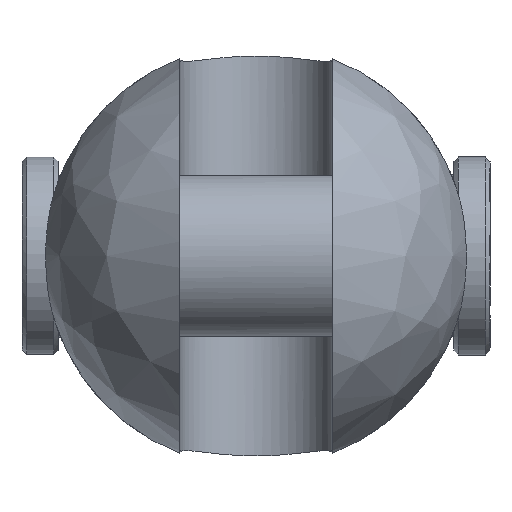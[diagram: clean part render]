
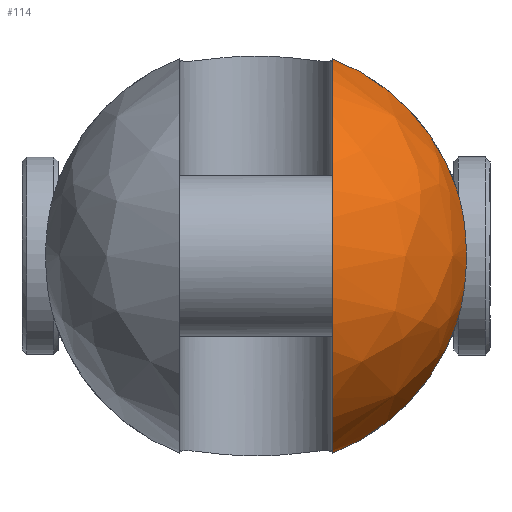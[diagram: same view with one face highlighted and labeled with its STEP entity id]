
A CAD part, left-side view. The second image highlights one B-rep face of the part: STEP entity #114.
In plain terms, the highlighted free-form (B-spline) face has degree [2, 2] with [9, 5] control points.
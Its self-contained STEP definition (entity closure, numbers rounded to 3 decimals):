
#114=ADVANCED_FACE('',(#202),#1530,.T.);
#202=FACE_OUTER_BOUND('',#302,.T.);
#302=EDGE_LOOP('',(#744,#745,#746,#747));
#744=ORIENTED_EDGE('',*,*,#999,.T.);
#745=ORIENTED_EDGE('',*,*,#996,.F.);
#746=ORIENTED_EDGE('',*,*,#1014,.T.);
#747=ORIENTED_EDGE('',*,*,#990,.F.);
#990=EDGE_CURVE('',#1420,#1421,#1252,.T.);
#996=EDGE_CURVE('',#1428,#1429,#1253,.T.);
#999=EDGE_CURVE('',#1420,#1429,#1255,.T.);
#1014=EDGE_CURVE('',#1428,#1421,#1123,.T.);
#1123=B_SPLINE_CURVE_WITH_KNOTS('',3,(#3559,#3560,#3561,#3562,#3563,#3564,
#3565,#3566,#3567,#3568,#3569,#3570,#3571,#3572),.UNSPECIFIED.,.F.,.F.,
(4,2,2,2,2,2,4),(0.,0.489,4.249,8.01,
11.771,15.532,16.021),.UNSPECIFIED.);
#1252=(
BOUNDED_CURVE()
B_SPLINE_CURVE(2,(#3465,#3466,#3467),.UNSPECIFIED.,.F.,.F.)
B_SPLINE_CURVE_WITH_KNOTS((3,3),(0.,20.761),.UNSPECIFIED.)
CURVE()
GEOMETRIC_REPRESENTATION_ITEM()
RATIONAL_B_SPLINE_CURVE((1.,0.904,1.))
REPRESENTATION_ITEM('')
);
#1253=(
BOUNDED_CURVE()
B_SPLINE_CURVE(2,(#3494,#3495,#3496),.UNSPECIFIED.,.F.,.F.)
B_SPLINE_CURVE_WITH_KNOTS((3,3),(0.,20.761),.UNSPECIFIED.)
CURVE()
GEOMETRIC_REPRESENTATION_ITEM()
RATIONAL_B_SPLINE_CURVE((1.,0.904,1.))
REPRESENTATION_ITEM('')
);
#1255=(
BOUNDED_CURVE()
B_SPLINE_CURVE(2,(#3502,#3503,#3504,#3505,#3506),.UNSPECIFIED.,.F.,.F.)
B_SPLINE_CURVE_WITH_KNOTS((3,2,3),(-68.829,-34.414,
0.),.UNSPECIFIED.)
CURVE()
GEOMETRIC_REPRESENTATION_ITEM()
RATIONAL_B_SPLINE_CURVE((1.,0.707,1.,0.707,1.))
REPRESENTATION_ITEM('')
);
#1420=VERTEX_POINT('',#3297);
#1421=VERTEX_POINT('',#3298);
#1428=VERTEX_POINT('',#3305);
#1429=VERTEX_POINT('',#3306);
#1530=(
BOUNDED_SURFACE()
B_SPLINE_SURFACE(2,2,((#3169,#3170,#3171,#3172,#3173),(#3174,#3175,#3176,
#3177,#3178),(#3179,#3180,#3181,#3182,#3183),(#3184,#3185,#3186,#3187,#3188),
(#3189,#3190,#3191,#3192,#3193),(#3194,#3195,#3196,#3197,#3198),(#3199,
#3200,#3201,#3202,#3203),(#3204,#3205,#3206,#3207,#3208),(#3209,#3210,#3211,
#3212,#3213)),.UNSPECIFIED.,.T.,.F.,.F.)
B_SPLINE_SURFACE_WITH_KNOTS((3,2,2,2,3),(3,2,3),(0.,36.914,73.827,
110.741,147.655),(0.,36.914,73.827),
 .UNSPECIFIED.)
GEOMETRIC_REPRESENTATION_ITEM()
RATIONAL_B_SPLINE_SURFACE(((1.,0.707,1.,0.707,1.),
(0.707,0.5,0.707,0.5,0.707),(1.,0.707,
1.,0.707,1.),(0.707,0.5,0.707,0.5,0.707),
(1.,0.707,1.,0.707,1.),(0.707,0.5,0.707,
0.5,0.707),(1.,0.707,1.,0.707,1.),(0.707,
0.5,0.707,0.5,0.707),(1.,0.707,1.,0.707,
1.)))
REPRESENTATION_ITEM('')
SURFACE()
);
#3169=CARTESIAN_POINT('',(-33.,0.,0.));
#3170=CARTESIAN_POINT('',(-33.,23.5,0.));
#3171=CARTESIAN_POINT('',(-9.5,23.5,0.));
#3172=CARTESIAN_POINT('',(14.,23.5,0.));
#3173=CARTESIAN_POINT('',(14.,0.,0.));
#3174=CARTESIAN_POINT('',(-33.,0.,0.));
#3175=CARTESIAN_POINT('',(-33.,23.5,23.5));
#3176=CARTESIAN_POINT('',(-9.5,23.5,23.5));
#3177=CARTESIAN_POINT('',(14.,23.5,23.5));
#3178=CARTESIAN_POINT('',(14.,0.,0.));
#3179=CARTESIAN_POINT('',(-33.,0.,0.));
#3180=CARTESIAN_POINT('',(-33.,0.,23.5));
#3181=CARTESIAN_POINT('',(-9.5,0.,23.5));
#3182=CARTESIAN_POINT('',(14.,0.,23.5));
#3183=CARTESIAN_POINT('',(14.,0.,0.));
#3184=CARTESIAN_POINT('',(-33.,0.,0.));
#3185=CARTESIAN_POINT('',(-33.,-23.5,23.5));
#3186=CARTESIAN_POINT('',(-9.5,-23.5,23.5));
#3187=CARTESIAN_POINT('',(14.,-23.5,23.5));
#3188=CARTESIAN_POINT('',(14.,0.,0.));
#3189=CARTESIAN_POINT('',(-33.,0.,0.));
#3190=CARTESIAN_POINT('',(-33.,-23.5,0.));
#3191=CARTESIAN_POINT('',(-9.5,-23.5,0.));
#3192=CARTESIAN_POINT('',(14.,-23.5,0.));
#3193=CARTESIAN_POINT('',(14.,0.,0.));
#3194=CARTESIAN_POINT('',(-33.,0.,0.));
#3195=CARTESIAN_POINT('',(-33.,-23.5,-23.5));
#3196=CARTESIAN_POINT('',(-9.5,-23.5,-23.5));
#3197=CARTESIAN_POINT('',(14.,-23.5,-23.5));
#3198=CARTESIAN_POINT('',(14.,0.,0.));
#3199=CARTESIAN_POINT('',(-33.,0.,0.));
#3200=CARTESIAN_POINT('',(-33.,0.,-23.5));
#3201=CARTESIAN_POINT('',(-9.5,0.,-23.5));
#3202=CARTESIAN_POINT('',(14.,0.,-23.5));
#3203=CARTESIAN_POINT('',(14.,0.,0.));
#3204=CARTESIAN_POINT('',(-33.,0.,0.));
#3205=CARTESIAN_POINT('',(-33.,23.5,-23.5));
#3206=CARTESIAN_POINT('',(-9.5,23.5,-23.5));
#3207=CARTESIAN_POINT('',(14.,23.5,-23.5));
#3208=CARTESIAN_POINT('',(14.,0.,0.));
#3209=CARTESIAN_POINT('',(-33.,0.,0.));
#3210=CARTESIAN_POINT('',(-33.,23.5,0.));
#3211=CARTESIAN_POINT('',(-9.5,23.5,0.));
#3212=CARTESIAN_POINT('',(14.,23.5,0.));
#3213=CARTESIAN_POINT('',(14.,0.,0.));
#3297=CARTESIAN_POINT('',(-9.5,-8.5,21.909));
#3298=CARTESIAN_POINT('',(-9.5,-22.327,7.331));
#3305=CARTESIAN_POINT('',(-9.5,-22.327,-7.331));
#3306=CARTESIAN_POINT('',(-9.5,-8.5,-21.909));
#3465=CARTESIAN_POINT('',(-9.5,-8.5,21.909));
#3466=CARTESIAN_POINT('',(-9.5,-18.86,17.889));
#3467=CARTESIAN_POINT('',(-9.5,-22.327,7.331));
#3494=CARTESIAN_POINT('',(-9.5,-22.327,-7.331));
#3495=CARTESIAN_POINT('',(-9.5,-18.86,-17.889));
#3496=CARTESIAN_POINT('',(-9.5,-8.5,-21.909));
#3502=CARTESIAN_POINT('',(-9.5,-8.5,21.909));
#3503=CARTESIAN_POINT('',(-31.409,-8.5,21.909));
#3504=CARTESIAN_POINT('',(-31.409,-8.5,0.));
#3505=CARTESIAN_POINT('',(-31.409,-8.5,-21.909));
#3506=CARTESIAN_POINT('',(-9.5,-8.5,-21.909));
#3559=CARTESIAN_POINT('',(-9.5,-22.327,-7.331));
#3560=CARTESIAN_POINT('',(-9.593,-22.367,-7.211));
#3561=CARTESIAN_POINT('',(-9.683,-22.405,-7.089));
#3562=CARTESIAN_POINT('',(-10.443,-22.726,-6.024));
#3563=CARTESIAN_POINT('',(-11.032,-22.97,-4.89));
#3564=CARTESIAN_POINT('',(-11.811,-23.29,-2.474));
#3565=CARTESIAN_POINT('',(-12.,-23.367,-1.192));
#3566=CARTESIAN_POINT('',(-12.,-23.367,1.192));
#3567=CARTESIAN_POINT('',(-11.811,-23.29,2.474));
#3568=CARTESIAN_POINT('',(-11.032,-22.97,4.89));
#3569=CARTESIAN_POINT('',(-10.443,-22.726,6.024));
#3570=CARTESIAN_POINT('',(-9.683,-22.405,7.089));
#3571=CARTESIAN_POINT('',(-9.593,-22.367,7.211));
#3572=CARTESIAN_POINT('',(-9.5,-22.327,7.331));
